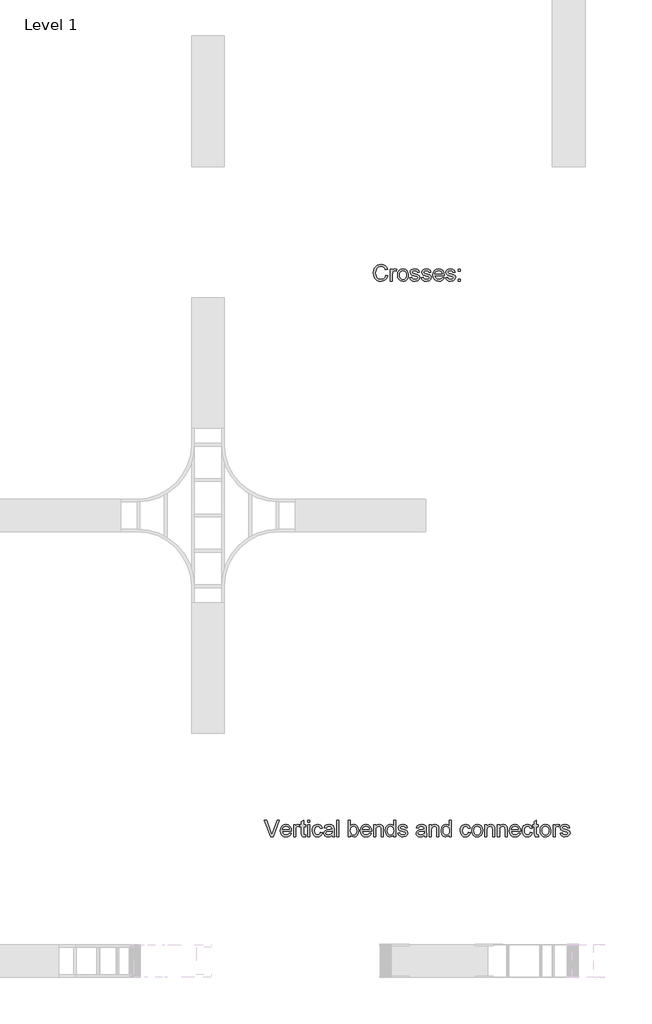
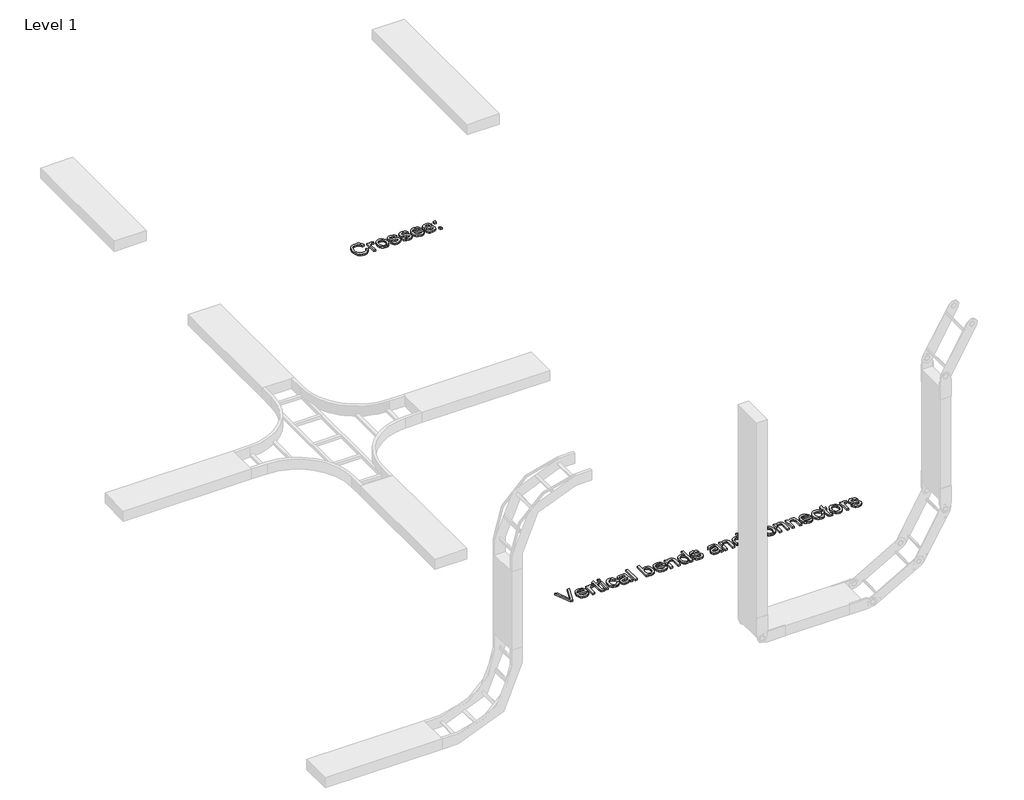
# One storey, part 72 of 106: 2 proxies.
"""IFC4 building model written with IfcOpenShell, lengths in millimetres."""

from ifc_helpers import new_model, si_unit, origin, origin_with_axes, place, context, project, spatial, polyline, outline, extrude, element, save

model = new_model("IFC4")

# Units and contexts
model_context = context("Model", 3, world=origin())
ifc_project = project(units=[si_unit("LENGTHUNIT", "METRE", prefix="MILLI")], contexts=[model_context])

# Site, building, storey
site = spatial("IfcSite", under=ifc_project)
building = spatial("IfcBuilding", under=site)
storey = spatial("IfcBuildingStorey", under=building, Name="Level 1", Elevation=0.0)

# Proxies
placement = place(None, origin())
element("IfcBuildingElementProxy", 1, Name="150mm Arial 2", ObjectType="150mm Arial 2", at=placement, inside=storey, context=model_context, shape_type="SweptSolid", body=[
    extrude(outline(polyline([(80026.8011102, 62501.4112533), (80045.6366684, 62496.5552109), (80036.9454562, 62474.6064514), (80023.3062312, 62458.5713949), (80005.3903781, 62448.7627412), (79983.8692814, 62445.49319), (79962.0216894, 62447.9671964), (79944.6714548, 62455.3892157), (79931.3725206, 62467.5017304), (79921.6788301, 62484.0472231), (79915.7605285, 62503.4989836), (79913.7877613, 62524.3303016), (79916.0180459, 62546.3020537), (79922.7088997, 62565.2755676), (79933.5108347, 62580.6484365), (79948.0743632, 62591.8182536), (79965.3464229, 62598.619472), (79984.2739516, 62600.8865448), (80004.9259271, 62597.9526859), (80022.0002502, 62589.1511091), (80034.963492, 62575.0244405), (80043.2822236, 62556.115306), (80024.4466654, 62551.6271456), (80017.91676, 62565.3629396), (80008.9956216, 62574.7853172), (79997.5728857, 62580.2345693), (79983.5381876, 62582.0509866), (79967.3605768, 62580.0368327), (79954.0708398, 62573.9943709), (79943.9862746, 62564.5581977), (79937.4241795, 62552.3629096), (79932.6233194, 62524.3670898), (79934.0442636, 62506.9662714), (79938.3070963, 62491.9198978), (79945.5727657, 62479.8027846), (79956.0022202, 62471.1897474), (79968.5056095, 62466.043998), (79981.9930832, 62464.3287482), (79997.71544, 62466.6647988), (80010.8166375, 62473.6729508), (80020.7080647, 62485.2796278), (80026.8011102, 62501.4112533)])), origin_with_axes(), (0.0, 0.0, 1.0), 15.0),
    extrude(outline(polyline([(80069.181116, 62447.8476348), (80069.181116, 62558.5065389), (80085.6622294, 62558.5065389), (80085.6622294, 62542.1357901), (80097.3608769, 62557.2189519), (80109.1331007, 62560.8609837), (80128.0422353, 62555.0484482), (80121.7514532, 62538.1626646), (80108.5077013, 62542.0254255), (80097.8575176, 62538.3098174), (80091.0700948, 62528.0091215), (80088.0166742, 62506.0097782), (80088.0166742, 62447.8476348), (80069.181116, 62447.8476348)])), origin_with_axes(), (0.0, 0.0, 1.0), 15.0),
    extrude(outline(polyline([(80135.1055696, 62503.1770869), (80139.1798627, 62529.8577286), (80151.402742, 62548.6105133), (80166.5042979, 62557.7983661), (80184.5856979, 62560.8609837), (80204.3731507, 62557.13158), (80220.178281, 62545.9433688), (80230.5387577, 62528.179267), (80233.9922499, 62504.7221912), (80232.4655396, 62485.693495), (80227.8854088, 62471.2081415), (80220.3852146, 62460.3602211), (80210.0983143, 62452.2438246), (80197.8800335, 62447.1808487), (80184.5856979, 62445.49319), (80164.5591218, 62449.2087982), (80148.7723857, 62460.3556226), (80138.5222736, 62478.492205), (80135.1055696, 62503.1770869)]), holes=[polyline([(80153.9411277, 62503.2138751), (80156.1208286, 62486.1671431), (80162.659931, 62474.0224387), (80172.5007744, 62466.7521708), (80184.5856979, 62464.3287482), (80196.6154392, 62466.7659664), (80206.4378884, 62474.077621), (80212.9769909, 62486.3832738), (80215.1566917, 62503.8024862), (80212.9631953, 62520.3525775), (80206.3827061, 62532.331735), (80196.5464613, 62539.6020029), (80184.5856979, 62542.0254255), (80172.5007744, 62539.6112), (80162.659931, 62532.3685232), (80156.1208286, 62520.25141), (80153.9411277, 62503.2138751)])]), origin_with_axes(), (0.0, 0.0, 1.0), 15.0),
    extrude(outline(polyline([(80248.1189185, 62480.8098615), (80266.9544766, 62483.1643063), (80269.9251238, 62475.1076906), (80275.6732799, 62469.1847905), (80295.6492723, 62464.3287482), (80314.8527124, 62468.7801203), (80321.1067063, 62479.227969), (80319.5340108, 62484.028829), (80314.8159242, 62487.6892549), (80295.4285431, 62493.060332), (80267.0648412, 62502.275776), (80254.6856121, 62513.0363243), (80250.4733633, 62528.2298507), (80253.8578776, 62542.2645488), (80263.0917157, 62552.988309), (80275.0662746, 62558.5617212), (80291.2714765, 62560.8609837), (80314.1905248, 62557.1637696), (80328.7586518, 62547.1573794), (80335.233375, 62530.2532017), (80316.3978168, 62527.8987569), (80309.3160884, 62538.2914233), (80292.7430045, 62542.0254255), (80274.7167867, 62538.4569702), (80269.3089214, 62530.1428371), (80271.5530016, 62524.6613954), (80278.5795477, 62520.5043288), (80294.8031437, 62516.4944151), (80322.4494756, 62507.628459), (80335.2885573, 62497.5852805), (80339.9422645, 62481.2145317), (80334.4792169, 62463.188314), (80318.7154734, 62450.1101091), (80295.3917549, 62445.49319), (80276.3998469, 62447.7188761), (80262.5398927, 62454.3959343), (80253.2876605, 62465.4507882), (80248.1189185, 62480.8098615)])), origin_with_axes(), (0.0, 0.0, 1.0), 15.0),
    extrude(outline(polyline([(80354.0689331, 62480.8098615), (80372.9044913, 62483.1643063), (80375.8751384, 62475.1076906), (80381.6232945, 62469.1847905), (80401.5992869, 62464.3287482), (80420.802727, 62468.7801203), (80427.056721, 62479.227969), (80425.4840254, 62484.028829), (80420.7659388, 62487.6892549), (80401.3785577, 62493.060332), (80373.0148559, 62502.275776), (80360.6356267, 62513.0363243), (80356.4233779, 62528.2298507), (80359.8078922, 62542.2645488), (80369.0417303, 62552.988309), (80381.0162893, 62558.5617212), (80397.2214911, 62560.8609837), (80420.1405394, 62557.1637696), (80434.7086664, 62547.1573794), (80441.1833896, 62530.2532017), (80422.3478314, 62527.8987569), (80415.266103, 62538.2914233), (80398.6930191, 62542.0254255), (80380.6668014, 62538.4569702), (80375.258936, 62530.1428371), (80377.5030162, 62524.6613954), (80384.5295623, 62520.5043288), (80400.7531583, 62516.4944151), (80428.3994902, 62507.628459), (80441.2385719, 62497.5852805), (80445.8922791, 62481.2145317), (80440.4292315, 62463.188314), (80424.665488, 62450.1101091), (80401.3417695, 62445.49319), (80382.3498615, 62447.7188761), (80368.4899073, 62454.3959343), (80359.2376751, 62465.4507882), (80354.0689331, 62480.8098615)])), origin_with_axes(), (0.0, 0.0, 1.0), 15.0),
    extrude(outline(polyline([(80544.5582302, 62480.8098615), (80563.0259064, 62478.4554168), (80556.3718408, 62464.5402803), (80545.7538467, 62454.1384169), (80531.4110474, 62447.6544967), (80513.5825662, 62445.49319), (80491.4820554, 62449.2225937), (80474.4767101, 62460.4108049), (80463.6333883, 62478.3312566), (80460.0189477, 62502.2573819), (80463.6701765, 62526.988249), (80474.6238629, 62545.4835163), (80491.3992819, 62557.0166168), (80512.5157084, 62560.8609837), (80532.9745459, 62557.0258139), (80549.322302, 62545.5203045), (80560.0414637, 62527.0618254), (80563.6145176, 62502.3677465), (80563.504153, 62497.2909749), (80478.8545059, 62497.2909749), (80482.1148601, 62483.1918975), (80489.6886306, 62472.8268223), (80500.6193244, 62466.4532667), (80513.9504482, 62464.3287482), (80532.4181244, 62468.2650855), (80544.5582302, 62480.8098615)]), holes=[polyline([(80478.8545059, 62516.1265331), (80544.7789594, 62516.1265331), (80542.2313766, 62526.0777411), (80537.2373785, 62533.1962577), (80526.2561009, 62539.8181336), (80512.442132, 62542.0254255), (80499.7456047, 62540.2641905), (80489.2471722, 62534.9804853), (80481.9493132, 62526.7445272), (80478.8545059, 62516.1265331)])]), origin_with_axes(), (0.0, 0.0, 1.0), 15.0),
    extrude(outline(polyline([(80575.3867414, 62480.8098615), (80594.2222996, 62483.1643063), (80597.1929467, 62475.1076906), (80602.9411028, 62469.1847905), (80622.9170952, 62464.3287482), (80642.1205353, 62468.7801203), (80648.3745292, 62479.227969), (80646.8018337, 62484.028829), (80642.0837471, 62487.6892549), (80622.696366, 62493.060332), (80594.3326642, 62502.275776), (80581.953435, 62513.0363243), (80577.7411862, 62528.2298507), (80581.1257005, 62542.2645488), (80590.3595386, 62552.988309), (80602.3340976, 62558.5617212), (80618.5392994, 62560.8609837), (80641.4583477, 62557.1637696), (80656.0264747, 62547.1573794), (80662.5011979, 62530.2532017), (80643.6656397, 62527.8987569), (80636.5839113, 62538.2914233), (80620.0108274, 62542.0254255), (80601.9846097, 62538.4569702), (80596.5767443, 62530.1428371), (80598.8208245, 62524.6613954), (80605.8473706, 62520.5043288), (80622.0709666, 62516.4944151), (80649.7172985, 62507.628459), (80662.5563802, 62497.5852805), (80667.2100874, 62481.2145317), (80661.7470398, 62463.188314), (80645.9832963, 62450.1101091), (80622.6595778, 62445.49319), (80603.6676698, 62447.7188761), (80589.8077156, 62454.3959343), (80580.5554834, 62465.4507882), (80575.3867414, 62480.8098615)])), origin_with_axes(), (0.0, 0.0, 1.0), 15.0),
    extrude(outline(polyline([(80693.1089799, 62539.6709808), (80693.1089799, 62558.5065389), (80711.944538, 62558.5065389), (80711.944538, 62539.6709808), (80693.1089799, 62539.6709808)])), origin_with_axes(), (0.0, 0.0, 1.0), 15.0),
    extrude(outline(polyline([(80693.1089799, 62447.8476348), (80693.1089799, 62466.6831929), (80711.944538, 62466.6831929), (80711.944538, 62447.8476348), (80693.1089799, 62447.8476348)])), origin_with_axes(), (0.0, 0.0, 1.0), 15.0),
])
element("IfcBuildingElementProxy", 2, Name="150mm Arial 2", ObjectType="150mm Arial 2", at=placement, inside=storey, context=model_context, shape_type="SweptSolid", body=[
    extrude(outline(polyline([(78972.9295586, 57347.8476348), (78913.0015816, 57498.5321), (78933.1615149, 57498.5321), (78973.2974406, 57389.9701232), (78981.4276327, 57365.5059705), (78989.4474602, 57389.9701232), (79029.6937505, 57498.5321), (79049.8168956, 57498.5321), (78992.353728, 57347.8476348), (78972.9295586, 57347.8476348)])), origin_with_axes(), (0.0, 0.0, 1.0), 15.0),
    extrude(outline(polyline([(79142.4863702, 57380.8098615), (79160.9540463, 57378.4554168), (79154.2999808, 57364.5402803), (79143.6819867, 57354.1384169), (79129.3391874, 57347.6544967), (79111.5107062, 57345.49319), (79089.4101953, 57349.2225937), (79072.4048501, 57360.4108049), (79061.5615283, 57378.3312566), (79057.9470877, 57402.2573819), (79061.5983165, 57426.988249), (79072.5520029, 57445.4835163), (79089.3274219, 57457.0166168), (79110.4438484, 57460.8609837), (79130.9026859, 57457.0258139), (79147.250442, 57445.5203045), (79157.9696037, 57427.0618254), (79161.5426575, 57402.3677465), (79161.4322929, 57397.2909749), (79076.7826459, 57397.2909749), (79080.043, 57383.1918975), (79087.6167706, 57372.8268223), (79098.5474644, 57366.4532667), (79111.8785882, 57364.3287482), (79130.3462644, 57368.2650855), (79142.4863702, 57380.8098615)]), holes=[polyline([(79076.7826459, 57416.1265331), (79142.7070994, 57416.1265331), (79140.1595166, 57426.0777411), (79135.1655185, 57433.1962577), (79124.1842409, 57439.8181336), (79110.370272, 57442.0254255), (79097.6737447, 57440.2641905), (79087.1753122, 57434.9804853), (79079.8774531, 57426.7445272), (79076.7826459, 57416.1265331)])]), origin_with_axes(), (0.0, 0.0, 1.0), 15.0),
    extrude(outline(polyline([(79291.0371198, 57363.556196), (79293.3915646, 57347.2958118), (79279.3016842, 57345.49319), (79263.5195466, 57348.620187), (79255.6468719, 57356.8239555), (79253.3660035, 57378.1978994), (79253.3660035, 57439.6709808), (79239.2393349, 57439.6709808), (79239.2393349, 57455.0484482), (79239.2393349, 57458.5065389), (79253.3660035, 57458.5065389), (79253.3660035, 57485.3987128), (79272.2015617, 57496.4719608), (79272.2015617, 57458.5065389), (79291.0371198, 57458.5065389), (79291.0371198, 57439.6709808), (79272.2015617, 57439.6709808), (79272.2015617, 57378.7497224), (79273.1948431, 57369.0376377), (79276.4138105, 57365.597941), (79282.8333514, 57364.3287482), (79291.0371198, 57363.556196)])), origin_with_axes(), (0.0, 0.0, 1.0), 15.0),
    extrude(outline(polyline([(79180.3782157, 57347.8476348), (79180.3782157, 57458.5065389), (79196.8593291, 57458.5065389), (79196.8593291, 57442.1357901), (79208.5579765, 57457.2189519), (79220.3302004, 57460.8609837), (79239.2393349, 57455.0484482), (79232.9485528, 57438.1626646), (79219.704801, 57442.0254255), (79209.0546172, 57438.3098174), (79202.2671944, 57428.0091215), (79199.2137738, 57406.0097782), (79199.2137738, 57347.8476348), (79180.3782157, 57347.8476348)])), origin_with_axes(), (0.0, 0.0, 1.0), 15.0),
    extrude(outline(polyline([(79309.872678, 57479.6965419), (79309.872678, 57498.5321), (79328.7082362, 57498.5321), (79328.7082362, 57479.6965419), (79309.872678, 57479.6965419)])), origin_with_axes(), (0.0, 0.0, 1.0), 15.0),
    extrude(outline(polyline([(79309.872678, 57347.8476348), (79309.872678, 57458.5065389), (79328.7082362, 57458.5065389), (79328.7082362, 57347.8476348), (79309.872678, 57347.8476348)])), origin_with_axes(), (0.0, 0.0, 1.0), 15.0),
    extrude(outline(polyline([(79427.5949165, 57387.8731959), (79446.4304746, 57385.5187511), (79441.1789591, 57368.7663247), (79431.3105246, 57356.1065856), (79417.7540731, 57348.1465389), (79401.4385066, 57345.49319), (79381.4027334, 57349.1950026), (79365.735559, 57360.3004403), (79355.6234026, 57378.3220596), (79352.2526838, 57402.7724167), (79353.6920221, 57419.5340401), (79358.0100371, 57434.0607803), (79365.2757065, 57445.7916175), (79375.5580082, 57454.1655314), (79387.8590624, 57459.1871206), (79401.1809892, 57460.8609837), (79417.096484, 57458.5617212), (79429.8206025, 57451.6639338), (79438.9486745, 57440.5355035), (79444.0760298, 57425.5443122), (79425.2404717, 57423.1898674), (79416.5032743, 57437.2981419), (79401.328142, 57442.0254255), (79389.1558465, 57439.6985719), (79379.4943456, 57432.7180111), (79373.1897679, 57420.7066639), (79371.088242, 57403.2874515), (79373.1437826, 57385.6337142), (79379.3104046, 57373.5809803), (79388.7971615, 57366.6418062), (79400.8131072, 57364.3287482), (79410.5665786, 57365.772685), (79418.5634135, 57370.1044955), (79424.3805475, 57377.4345442), (79427.5949165, 57387.8731959)])), origin_with_axes(), (0.0, 0.0, 1.0), 15.0),
    extrude(outline(polyline([(79533.5449311, 57361.9743034), (79515.27959, 57349.2087982), (79495.1012626, 57345.49319), (79479.3605117, 57347.7280731), (79467.7492362, 57354.4327225), (79460.5893329, 57364.6138567), (79458.2026985, 57377.2781944), (79461.807942, 57392.1774152), (79471.2809034, 57402.9931459), (79484.4694729, 57409.1735634), (79500.7666453, 57412.0062547), (79533.4345665, 57418.4809779), (79533.5449311, 57422.6748326), (79532.248147, 57431.0809362), (79528.3577949, 57436.580772), (79519.6573857, 57440.6642622), (79507.535674, 57442.0254255), (79488.4793867, 57438.4017879), (79479.3927014, 57425.5443122), (79460.5571432, 57427.8987569), (79468.7057294, 57446.2928567), (79485.1132664, 57457.0717991), (79509.9636952, 57460.8609837), (79532.790773, 57457.5132575), (79545.6850369, 57449.107154), (79551.4607842, 57436.3232546), (79552.3804892, 57419.8421412), (79552.3804892, 57396.4080581), (79553.3369824, 57363.6849547), (79557.0893788, 57347.8476348), (79538.2538206, 57347.8476348), (79533.5449311, 57361.9743034)]), holes=[polyline([(79533.5449311, 57399.6454197), (79503.1578783, 57393.8696724), (79486.9526764, 57390.8162518), (79479.6134306, 57385.8498449), (79477.0382566, 57378.6025696), (79482.648457, 57368.4122383), (79499.1111763, 57364.3287482), (79518.1674637, 57368.8353026), (79530.4547223, 57379.7430038), (79533.4345665, 57394.3111308), (79533.5449311, 57399.6454197)])]), origin_with_axes(), (0.0, 0.0, 1.0), 15.0),
    extrude(outline(polyline([(79578.2793817, 57347.8476348), (79578.2793817, 57498.5321), (79597.1149398, 57498.5321), (79597.1149398, 57347.8476348), (79578.2793817, 57347.8476348)])), origin_with_axes(), (0.0, 0.0, 1.0), 15.0),
    extrude(outline(polyline([(79703.0649544, 57347.8476348), (79684.2293963, 57347.8476348), (79684.2293963, 57498.5321), (79703.0649544, 57498.5321), (79703.0649544, 57442.6508249), (79716.253524, 57456.308444), (79732.6426669, 57460.8609837), (79751.5150132, 57456.7590995), (79766.1567166, 57445.2259989), (79775.1514314, 57427.2917516), (79778.4071871, 57404.8325558), (79775.0364683, 57379.6878215), (79764.9243119, 57360.981022), (79750.084872, 57349.365148), (79732.5323023, 57345.49319), (79715.7844744, 57350.4871881), (79703.0649544, 57365.4691823), (79703.0649544, 57347.8476348)]), holes=[polyline([(79703.0649544, 57403.949639), (79704.3525414, 57388.2410779), (79708.2153024, 57377.6092882), (79718.0837369, 57367.6488832), (79730.9136215, 57364.3287482), (79741.7845344, 57366.7751634), (79751.0735548, 57374.1144092), (79757.4471104, 57386.3005003), (79759.5716289, 57403.2874515), (79757.5344824, 57420.5227229), (79751.4230427, 57432.5708583), (79742.4237294, 57439.6617837), (79731.7229619, 57442.0254255), (79720.8520489, 57439.5790103), (79711.5630285, 57432.2397645), (79705.189473, 57420.2744026), (79703.0649544, 57403.949639)])]), origin_with_axes(), (0.0, 0.0, 1.0), 15.0),
    extrude(outline(polyline([(79877.0731382, 57380.8098615), (79895.5408143, 57378.4554168), (79888.8867487, 57364.5402803), (79878.2687546, 57354.1384169), (79863.9259554, 57347.6544967), (79846.0974742, 57345.49319), (79823.9969633, 57349.2225937), (79806.9916181, 57360.4108049), (79796.1482963, 57378.3312566), (79792.5338557, 57402.2573819), (79796.1850845, 57426.988249), (79807.1387709, 57445.4835163), (79823.9141899, 57457.0166168), (79845.0306164, 57460.8609837), (79865.4894538, 57457.0258139), (79881.83721, 57445.5203045), (79892.5563716, 57427.0618254), (79896.1294255, 57402.3677465), (79896.0190609, 57397.2909749), (79811.3694138, 57397.2909749), (79814.629768, 57383.1918975), (79822.2035386, 57372.8268223), (79833.1342324, 57366.4532667), (79846.4653562, 57364.3287482), (79864.9330323, 57368.2650855), (79877.0731382, 57380.8098615)]), holes=[polyline([(79811.3694138, 57416.1265331), (79877.2938674, 57416.1265331), (79874.7462845, 57426.0777411), (79869.7522865, 57433.1962577), (79858.7710089, 57439.8181336), (79844.95704, 57442.0254255), (79832.2605126, 57440.2641905), (79821.7620802, 57434.9804853), (79814.4642211, 57426.7445272), (79811.3694138, 57416.1265331)])]), origin_with_axes(), (0.0, 0.0, 1.0), 15.0),
    extrude(outline(polyline([(79914.9649837, 57347.8476348), (79914.9649837, 57458.5065389), (79933.8005418, 57458.5065389), (79933.8005418, 57443.0554951), (79948.2031219, 57456.4096116), (79967.8664146, 57460.8609837), (79985.653509, 57457.2741342), (79997.7936149, 57447.8563552), (80003.4406035, 57434.0055981), (80004.4338849, 57415.7954393), (80004.4338849, 57347.8476348), (79985.5983267, 57347.8476348), (79985.5983267, 57413.2570535), (79983.427823, 57429.9221079), (79975.7574834, 57438.7328817), (79962.8264312, 57442.0254255), (79951.7945699, 57440.1768185), (79942.3905864, 57434.6309974), (79935.948053, 57423.9164343), (79933.8005418, 57406.5616012), (79933.8005418, 57347.8476348), (79914.9649837, 57347.8476348)])), origin_with_axes(), (0.0, 0.0, 1.0), 15.0),
    extrude(outline(polyline([(80098.6116757, 57347.8476348), (80098.6116757, 57365.6163351), (80086.1496731, 57350.5239763), (80068.9235986, 57345.49319), (80056.7467046, 57347.3142059), (80045.5998802, 57352.7772535), (80036.163707, 57361.5006553), (80029.1187668, 57373.1027337), (80024.731774, 57387.1144392), (80023.269443, 57403.0667223), (80028.6589143, 57433.0491049), (80035.3911548, 57444.9408904), (80044.8089339, 57453.6872848), (80056.1994801, 57459.067559), (80068.8500222, 57460.8609837), (80086.2140524, 57455.7290299), (80098.6116757, 57442.3933075), (80098.6116757, 57498.5321), (80117.4472338, 57498.5321), (80117.4472338, 57347.8476348), (80098.6116757, 57347.8476348)]), holes=[polyline([(80042.1050012, 57403.1402987), (80044.2295197, 57386.1027638), (80050.6030753, 57373.9856505), (80059.8645045, 57366.7429738), (80070.652644, 57364.3287482), (80081.436185, 57366.6326092), (80090.4630895, 57373.5441921), (80096.5745291, 57385.1922558), (80098.6116757, 57401.7055589), (80096.5377409, 57419.7593678), (80090.3159367, 57432.2765527), (80081.059106, 57439.5882073), (80069.8800918, 57442.0254255), (80058.9815877, 57439.6847764), (80050.0512523, 57432.6628288), (80044.091564, 57420.6008979), (80042.1050012, 57403.1402987)])]), origin_with_axes(), (0.0, 0.0, 1.0), 15.0),
    extrude(outline(polyline([(80138.6372367, 57380.8098615), (80157.4727949, 57383.1643063), (80160.443442, 57375.1076906), (80166.1915982, 57369.1847905), (80186.1675905, 57364.3287482), (80205.3710307, 57368.7801203), (80211.6250246, 57379.227969), (80210.052329, 57384.028829), (80205.3342425, 57387.6892549), (80185.9468613, 57393.060332), (80157.5831595, 57402.275776), (80145.2039303, 57413.0363243), (80140.9916815, 57428.2298507), (80144.3761959, 57442.2645488), (80153.6100339, 57452.988309), (80165.5845929, 57458.5617212), (80181.7897948, 57460.8609837), (80204.7088431, 57457.1637696), (80219.2769701, 57447.1573794), (80225.7516932, 57430.2532017), (80206.916135, 57427.8987569), (80199.8344066, 57438.2914233), (80183.2613227, 57442.0254255), (80165.235105, 57438.4569702), (80159.8272397, 57430.1428371), (80162.0713198, 57424.6613954), (80169.0978659, 57420.5043288), (80185.3214619, 57416.4944151), (80212.9677939, 57407.628459), (80225.8068755, 57397.5852805), (80230.4605827, 57381.2145317), (80224.9975351, 57363.188314), (80209.2337916, 57350.1101091), (80185.9100731, 57345.49319), (80166.9181651, 57347.7188761), (80153.0582109, 57354.3959343), (80143.8059788, 57365.4507882), (80138.6372367, 57380.8098615)])), origin_with_axes(), (0.0, 0.0, 1.0), 15.0),
    extrude(outline(polyline([(80381.145048, 57361.9743034), (80362.8797069, 57349.2087982), (80342.7013795, 57345.49319), (80326.9606286, 57347.7280731), (80315.3493531, 57354.4327225), (80308.1894498, 57364.6138567), (80305.8028153, 57377.2781944), (80309.4080589, 57392.1774152), (80318.8810203, 57402.9931459), (80332.0695898, 57409.1735634), (80348.3667622, 57412.0062547), (80381.0346834, 57418.4809779), (80381.145048, 57422.6748326), (80379.8482639, 57431.0809362), (80375.9579118, 57436.580772), (80367.2575026, 57440.6642622), (80355.1357909, 57442.0254255), (80336.0795035, 57438.4017879), (80326.9928183, 57425.5443122), (80308.1572601, 57427.8987569), (80316.3058463, 57446.2928567), (80332.7133833, 57457.0717991), (80357.5638121, 57460.8609837), (80380.3908899, 57457.5132575), (80393.2851538, 57449.107154), (80399.0609011, 57436.3232546), (80399.9806061, 57419.8421412), (80399.9806061, 57396.4080581), (80400.9370993, 57363.6849547), (80404.6894956, 57347.8476348), (80385.8539375, 57347.8476348), (80381.145048, 57361.9743034)]), holes=[polyline([(80381.145048, 57399.6454197), (80350.7579952, 57393.8696724), (80334.5527933, 57390.8162518), (80327.2135475, 57385.8498449), (80324.6383735, 57378.6025696), (80330.2485739, 57368.4122383), (80346.7112932, 57364.3287482), (80365.7675806, 57368.8353026), (80378.0548392, 57379.7430038), (80381.0346834, 57394.3111308), (80381.145048, 57399.6454197)])]), origin_with_axes(), (0.0, 0.0, 1.0), 15.0),
    extrude(outline(polyline([(80425.8794986, 57347.8476348), (80425.8794986, 57458.5065389), (80444.7150567, 57458.5065389), (80444.7150567, 57443.0554951), (80459.1176368, 57456.4096116), (80478.7809295, 57460.8609837), (80496.5680239, 57457.2741342), (80508.7081298, 57447.8563552), (80514.3551184, 57434.0055981), (80515.3483998, 57415.7954393), (80515.3483998, 57347.8476348), (80496.5128416, 57347.8476348), (80496.5128416, 57413.2570535), (80494.3423379, 57429.9221079), (80486.6719983, 57438.7328817), (80473.7409461, 57442.0254255), (80462.7090848, 57440.1768185), (80453.3051013, 57434.6309974), (80446.8625679, 57423.9164343), (80444.7150567, 57406.5616012), (80444.7150567, 57347.8476348), (80425.8794986, 57347.8476348)])), origin_with_axes(), (0.0, 0.0, 1.0), 15.0),
    extrude(outline(polyline([(80609.5261906, 57347.8476348), (80609.5261906, 57365.6163351), (80597.064188, 57350.5239763), (80579.8381135, 57345.49319), (80567.6612195, 57347.3142059), (80556.5143951, 57352.7772535), (80547.0782219, 57361.5006553), (80540.0332817, 57373.1027337), (80535.6462889, 57387.1144392), (80534.1839579, 57403.0667223), (80539.5734292, 57433.0491049), (80546.3056697, 57444.9408904), (80555.7234488, 57453.6872848), (80567.113995, 57459.067559), (80579.7645371, 57460.8609837), (80597.1285673, 57455.7290299), (80609.5261906, 57442.3933075), (80609.5261906, 57498.5321), (80628.3617487, 57498.5321), (80628.3617487, 57347.8476348), (80609.5261906, 57347.8476348)]), holes=[polyline([(80553.0195161, 57403.1402987), (80555.1440346, 57386.1027638), (80561.5175902, 57373.9856505), (80570.7790194, 57366.7429738), (80581.5671589, 57364.3287482), (80592.3506999, 57366.6326092), (80601.3776044, 57373.5441921), (80607.489044, 57385.1922558), (80609.5261906, 57401.7055589), (80607.4522558, 57419.7593678), (80601.2304516, 57432.2765527), (80591.9736209, 57439.5882073), (80580.7946067, 57442.0254255), (80569.8961026, 57439.6847764), (80560.9657672, 57432.6628288), (80555.0060789, 57420.6008979), (80553.0195161, 57403.1402987)])]), origin_with_axes(), (0.0, 0.0, 1.0), 15.0),
    extrude(outline(polyline([(80786.1095482, 57387.8731959), (80804.9451064, 57385.5187511), (80799.6935909, 57368.7663247), (80789.8251564, 57356.1065856), (80776.2687049, 57348.1465389), (80759.9531384, 57345.49319), (80739.9173652, 57349.1950026), (80724.2501908, 57360.3004403), (80714.1380344, 57378.3220596), (80710.7673156, 57402.7724167), (80712.2066539, 57419.5340401), (80716.5246689, 57434.0607803), (80723.7903383, 57445.7916175), (80734.07264, 57454.1655314), (80746.3736942, 57459.1871206), (80759.695621, 57460.8609837), (80775.6111158, 57458.5617212), (80788.3352343, 57451.6639338), (80797.4633063, 57440.5355035), (80802.5906616, 57425.5443122), (80783.7551035, 57423.1898674), (80775.0179061, 57437.2981419), (80759.8427738, 57442.0254255), (80747.6704783, 57439.6985719), (80738.0089774, 57432.7180111), (80731.7043997, 57420.7066639), (80729.6028738, 57403.2874515), (80731.6584144, 57385.6337142), (80737.8250364, 57373.5809803), (80747.3117933, 57366.6418062), (80759.327739, 57364.3287482), (80769.0812104, 57365.772685), (80777.0780453, 57370.1044955), (80782.8951793, 57377.4345442), (80786.1095482, 57387.8731959)])), origin_with_axes(), (0.0, 0.0, 1.0), 15.0),
    extrude(outline(polyline([(80816.7173302, 57403.1770869), (80820.7916233, 57429.8577286), (80833.0145026, 57448.6105133), (80848.1160585, 57457.7983661), (80866.1974586, 57460.8609837), (80885.9849114, 57457.13158), (80901.7900416, 57445.9433688), (80912.1505183, 57428.179267), (80915.6040105, 57404.7221912), (80914.0773003, 57385.693495), (80909.4971694, 57371.2081415), (80901.9969752, 57360.3602211), (80891.710075, 57352.2438246), (80879.4917942, 57347.1808487), (80866.1974586, 57345.49319), (80846.1708825, 57349.2087982), (80830.3841464, 57360.3556226), (80820.1340343, 57378.492205), (80816.7173302, 57403.1770869)]), holes=[polyline([(80835.5528884, 57403.2138751), (80837.7325892, 57386.1671431), (80844.2716917, 57374.0224387), (80854.1125351, 57366.7521708), (80866.1974586, 57364.3287482), (80878.2271998, 57366.7659664), (80888.0496491, 57374.077621), (80894.5887516, 57386.3832738), (80896.7684524, 57403.8024862), (80894.574956, 57420.3525775), (80887.9944668, 57432.331735), (80878.158222, 57439.6020029), (80866.1974586, 57442.0254255), (80854.1125351, 57439.6112), (80844.2716917, 57432.3685232), (80837.7325892, 57420.25141), (80835.5528884, 57403.2138751)])]), origin_with_axes(), (0.0, 0.0, 1.0), 15.0),
    extrude(outline(polyline([(80936.7940135, 57347.8476348), (80936.7940135, 57458.5065389), (80955.6295716, 57458.5065389), (80955.6295716, 57443.0554951), (80970.0321517, 57456.4096116), (80989.6954444, 57460.8609837), (81007.4825388, 57457.2741342), (81019.6226447, 57447.8563552), (81025.2696333, 57434.0055981), (81026.2629147, 57415.7954393), (81026.2629147, 57347.8476348), (81007.4273565, 57347.8476348), (81007.4273565, 57413.2570535), (81005.2568528, 57429.9221079), (80997.5865132, 57438.7328817), (80984.655461, 57442.0254255), (80973.6235997, 57440.1768185), (80964.2196162, 57434.6309974), (80957.7770828, 57423.9164343), (80955.6295716, 57406.5616012), (80955.6295716, 57347.8476348), (80936.7940135, 57347.8476348)])), origin_with_axes(), (0.0, 0.0, 1.0), 15.0),
    extrude(outline(polyline([(81052.1618072, 57347.8476348), (81052.1618072, 57458.5065389), (81070.9973653, 57458.5065389), (81070.9973653, 57443.0554951), (81085.3999454, 57456.4096116), (81105.0632381, 57460.8609837), (81122.8503325, 57457.2741342), (81134.9904384, 57447.8563552), (81140.637427, 57434.0055981), (81141.6307084, 57415.7954393), (81141.6307084, 57347.8476348), (81122.7951502, 57347.8476348), (81122.7951502, 57413.2570535), (81120.6246465, 57429.9221079), (81112.9543069, 57438.7328817), (81100.0232547, 57442.0254255), (81088.9913934, 57440.1768185), (81079.5874099, 57434.6309974), (81073.1448765, 57423.9164343), (81070.9973653, 57406.5616012), (81070.9973653, 57347.8476348), (81052.1618072, 57347.8476348)])), origin_with_axes(), (0.0, 0.0, 1.0), 15.0),
    extrude(outline(polyline([(81245.005549, 57380.8098615), (81263.4732252, 57378.4554168), (81256.8191596, 57364.5402803), (81246.2011655, 57354.1384169), (81231.8583662, 57347.6544967), (81214.029885, 57345.49319), (81191.9293742, 57349.2225937), (81174.9240289, 57360.4108049), (81164.0807071, 57378.3312566), (81160.4662665, 57402.2573819), (81164.1174953, 57426.988249), (81175.0711817, 57445.4835163), (81191.8466007, 57457.0166168), (81212.9630272, 57460.8609837), (81233.4218647, 57457.0258139), (81249.7696209, 57445.5203045), (81260.4887825, 57427.0618254), (81264.0618364, 57402.3677465), (81263.9514718, 57397.2909749), (81179.3018247, 57397.2909749), (81182.5621789, 57383.1918975), (81190.1359494, 57372.8268223), (81201.0666432, 57366.4532667), (81214.397767, 57364.3287482), (81232.8654432, 57368.2650855), (81245.005549, 57380.8098615)]), holes=[polyline([(81179.3018247, 57416.1265331), (81245.2262782, 57416.1265331), (81242.6786954, 57426.0777411), (81237.6846973, 57433.1962577), (81226.7034198, 57439.8181336), (81212.8894508, 57442.0254255), (81200.1929235, 57440.2641905), (81189.6944911, 57434.9804853), (81182.396632, 57426.7445272), (81179.3018247, 57416.1265331)])]), origin_with_axes(), (0.0, 0.0, 1.0), 15.0),
    extrude(outline(polyline([(81353.5307376, 57387.8731959), (81372.3662958, 57385.5187511), (81367.1147803, 57368.7663247), (81357.2463458, 57356.1065856), (81343.6898942, 57348.1465389), (81327.3743277, 57345.49319), (81307.3385546, 57349.1950026), (81291.6713801, 57360.3004403), (81281.5592238, 57378.3220596), (81278.188505, 57402.7724167), (81279.6278433, 57419.5340401), (81283.9458582, 57434.0607803), (81291.2115276, 57445.7916175), (81301.4938294, 57454.1655314), (81313.7948836, 57459.1871206), (81327.1168103, 57460.8609837), (81343.0323052, 57458.5617212), (81355.7564237, 57451.6639338), (81364.8844957, 57440.5355035), (81370.011851, 57425.5443122), (81351.1762928, 57423.1898674), (81342.4390954, 57437.2981419), (81327.2639631, 57442.0254255), (81315.0916676, 57439.6985719), (81305.4301667, 57432.7180111), (81299.125589, 57420.7066639), (81297.0240631, 57403.2874515), (81299.0796038, 57385.6337142), (81305.2462257, 57373.5809803), (81314.7329827, 57366.6418062), (81326.7489284, 57364.3287482), (81336.5023998, 57365.772685), (81344.4992346, 57370.1044955), (81350.3163687, 57377.4345442), (81353.5307376, 57387.8731959)])), origin_with_axes(), (0.0, 0.0, 1.0), 15.0),
    extrude(outline(polyline([(81428.8729702, 57363.556196), (81431.227415, 57347.2958118), (81417.1375346, 57345.49319), (81401.355397, 57348.620187), (81393.4827223, 57356.8239555), (81391.2018539, 57378.1978994), (81391.2018539, 57439.6709808), (81377.0751853, 57439.6709808), (81377.0751853, 57458.5065389), (81391.2018539, 57458.5065389), (81391.2018539, 57485.3987128), (81410.0374121, 57496.4719608), (81410.0374121, 57458.5065389), (81428.8729702, 57458.5065389), (81428.8729702, 57439.6709808), (81410.0374121, 57439.6709808), (81410.0374121, 57378.7497224), (81411.0306934, 57369.0376377), (81414.2496609, 57365.597941), (81420.6692017, 57364.3287482), (81428.8729702, 57363.556196)])), origin_with_axes(), (0.0, 0.0, 1.0), 15.0),
    extrude(outline(polyline([(81442.9996388, 57403.1770869), (81447.0739319, 57429.8577286), (81459.2968112, 57448.6105133), (81474.3983671, 57457.7983661), (81492.4797672, 57460.8609837), (81512.26722, 57457.13158), (81528.0723502, 57445.9433688), (81538.4328269, 57428.179267), (81541.8863191, 57404.7221912), (81540.3596089, 57385.693495), (81535.779478, 57371.2081415), (81528.2792838, 57360.3602211), (81517.9923835, 57352.2438246), (81505.7741028, 57347.1808487), (81492.4797672, 57345.49319), (81472.4531911, 57349.2087982), (81456.666455, 57360.3556226), (81446.4163429, 57378.492205), (81442.9996388, 57403.1770869)]), holes=[polyline([(81461.835197, 57403.2138751), (81464.0148978, 57386.1671431), (81470.5540003, 57374.0224387), (81480.3948436, 57366.7521708), (81492.4797672, 57364.3287482), (81504.5095084, 57366.7659664), (81514.3319577, 57374.077621), (81520.8710602, 57386.3832738), (81523.050761, 57403.8024862), (81520.8572646, 57420.3525775), (81514.2767754, 57432.331735), (81504.4405305, 57439.6020029), (81492.4797672, 57442.0254255), (81480.3948436, 57439.6112), (81470.5540003, 57432.3685232), (81464.0148978, 57420.25141), (81461.835197, 57403.2138751)])]), origin_with_axes(), (0.0, 0.0, 1.0), 15.0),
    extrude(outline(polyline([(81563.0763221, 57347.8476348), (81563.0763221, 57458.5065389), (81579.5574354, 57458.5065389), (81579.5574354, 57442.1357901), (81591.2560829, 57457.2189519), (81603.0283067, 57460.8609837), (81621.9374413, 57455.0484482), (81615.6466592, 57438.1626646), (81602.4029073, 57442.0254255), (81591.7527236, 57438.3098174), (81584.9653008, 57428.0091215), (81581.9118802, 57406.0097782), (81581.9118802, 57347.8476348), (81563.0763221, 57347.8476348)])), origin_with_axes(), (0.0, 0.0, 1.0), 15.0),
    extrude(outline(polyline([(81626.6463308, 57380.8098615), (81645.481889, 57383.1643063), (81648.4525361, 57375.1076906), (81654.2006923, 57369.1847905), (81674.1766846, 57364.3287482), (81693.3801247, 57368.7801203), (81699.6341187, 57379.227969), (81698.0614231, 57384.028829), (81693.3433365, 57387.6892549), (81673.9559554, 57393.060332), (81645.5922536, 57402.275776), (81633.2130244, 57413.0363243), (81629.0007756, 57428.2298507), (81632.3852899, 57442.2645488), (81641.619128, 57452.988309), (81653.593687, 57458.5617212), (81669.7988889, 57460.8609837), (81692.7179372, 57457.1637696), (81707.2860642, 57447.1573794), (81713.7607873, 57430.2532017), (81694.9252291, 57427.8987569), (81687.8435007, 57438.2914233), (81671.2704168, 57442.0254255), (81653.2441991, 57438.4569702), (81647.8363337, 57430.1428371), (81650.0804139, 57424.6613954), (81657.10696, 57420.5043288), (81673.330556, 57416.4944151), (81700.9768879, 57407.628459), (81713.8159696, 57397.5852805), (81718.4696768, 57381.2145317), (81713.0066292, 57363.188314), (81697.2428857, 57350.1101091), (81673.9191672, 57345.49319), (81654.9272592, 57347.7188761), (81641.067305, 57354.3959343), (81631.8150729, 57365.4507882), (81626.6463308, 57380.8098615)])), origin_with_axes(), (0.0, 0.0, 1.0), 15.0),
])

save(model, "model.ifc")
